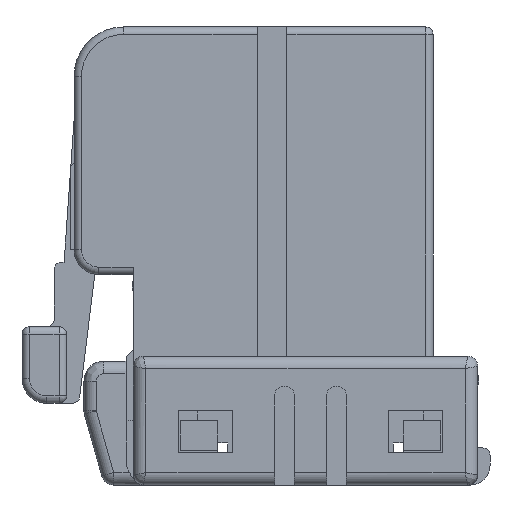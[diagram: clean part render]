
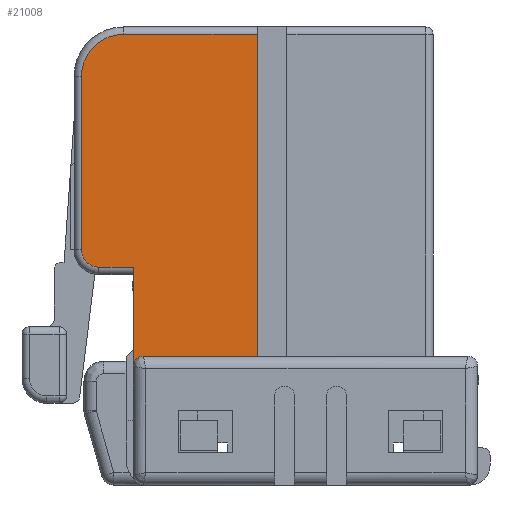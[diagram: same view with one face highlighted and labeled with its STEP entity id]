
A CAD part, left-side view. The second image highlights one B-rep face of the part: STEP entity #21008.
In plain terms, the highlighted planar face has unit normal (-1, 0, 0).
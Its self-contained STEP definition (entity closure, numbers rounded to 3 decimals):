
#3799=DIRECTION('',(0.,0.,-1.));
#3800=VECTOR('',#3799,4.);
#3801=CARTESIAN_POINT('',(-13.25,6.3,-9.7));
#3802=LINE('',#3801,#3800);
#6652=DIRECTION('',(0.,0.,-1.));
#6653=VECTOR('',#6652,13.);
#6654=CARTESIAN_POINT('',(-13.25,1.3,-0.3));
#6655=LINE('',#6654,#6653);
#6656=DIRECTION('',(0.,1.,0.));
#6657=VECTOR('',#6656,4.6);
#6658=CARTESIAN_POINT('',(-13.25,1.3,-13.3));
#6659=LINE('',#6658,#6657);
#6660=DIRECTION('',(0.,-1.,0.));
#6661=VECTOR('',#6660,1.4);
#6662=CARTESIAN_POINT('',(-13.25,7.7,-9.7));
#6663=LINE('',#6662,#6661);
#6664=CARTESIAN_POINT('',(-13.25,7.7,-9.));
#6665=DIRECTION('',(-1.,0.,0.));
#6666=DIRECTION('',(0.,1.,0.));
#6667=AXIS2_PLACEMENT_3D('',#6664,#6665,#6666);
#6669=DIRECTION('',(0.,0.,-1.));
#6670=VECTOR('',#6669,7.);
#6671=CARTESIAN_POINT('',(-13.25,8.4,-2.));
#6672=LINE('',#6671,#6670);
#6673=CARTESIAN_POINT('',(-13.25,6.7,-2.));
#6674=DIRECTION('',(-1.,0.,0.));
#6675=DIRECTION('',(0.,0.,1.));
#6676=AXIS2_PLACEMENT_3D('',#6673,#6674,#6675);
#6678=DIRECTION('',(0.,1.,0.));
#6679=VECTOR('',#6678,5.4);
#6680=CARTESIAN_POINT('',(-13.25,1.3,-0.3));
#6681=LINE('',#6680,#6679);
#6682=CARTESIAN_POINT('',(-13.25,5.9,-13.7));
#6683=DIRECTION('',(1.,0.,0.));
#6684=DIRECTION('',(0.,1.,0.));
#6685=AXIS2_PLACEMENT_3D('',#6682,#6683,#6684);
#9398=CARTESIAN_POINT('',(-13.25,1.3,-13.3));
#9400=VERTEX_POINT('',#9398);
#10146=CARTESIAN_POINT('',(-13.25,6.3,-13.7));
#10148=VERTEX_POINT('',#10146);
#10150=CARTESIAN_POINT('',(-13.25,5.9,-13.3));
#10152=VERTEX_POINT('',#10150);
#10578=CARTESIAN_POINT('',(-13.25,7.7,-9.7));
#10579=CARTESIAN_POINT('',(-13.25,6.3,-9.7));
#10580=VERTEX_POINT('',#10578);
#10581=VERTEX_POINT('',#10579);
#10582=CARTESIAN_POINT('',(-13.25,8.4,-9.));
#10583=VERTEX_POINT('',#10582);
#10586=CARTESIAN_POINT('',(-13.25,8.4,-2.));
#10587=VERTEX_POINT('',#10586);
#10590=CARTESIAN_POINT('',(-13.25,6.7,-0.3));
#10591=VERTEX_POINT('',#10590);
#10595=CARTESIAN_POINT('',(-13.25,1.3,-0.3));
#10597=VERTEX_POINT('',#10595);
#20987=CARTESIAN_POINT('',(-13.25,8.7,0.));
#20988=DIRECTION('',(-1.,0.,0.));
#20989=DIRECTION('',(0.,-1.,0.));
#20990=AXIS2_PLACEMENT_3D('',#20987,#20988,#20989);
#20991=PLANE('',#20990);
#20992=ORIENTED_EDGE('',*,*,#20865,.T.);
#20994=ORIENTED_EDGE('',*,*,#20993,.F.);
#20995=ORIENTED_EDGE('',*,*,#16971,.F.);
#20997=ORIENTED_EDGE('',*,*,#20996,.F.);
#20999=ORIENTED_EDGE('',*,*,#20998,.F.);
#21001=ORIENTED_EDGE('',*,*,#21000,.F.);
#21003=ORIENTED_EDGE('',*,*,#21002,.F.);
#21004=ORIENTED_EDGE('',*,*,#20979,.F.);
#21005=ORIENTED_EDGE('',*,*,#20968,.T.);
#21006=EDGE_LOOP('',(#20992,#20994,#20995,#20997,#20999,#21001,#21003,#21004,
#21005));
#21007=FACE_OUTER_BOUND('',#21006,.F.);
#21008=ADVANCED_FACE('',(#21007),#20991,.T.);
#6668=CIRCLE('',#6667,0.7);
#6677=CIRCLE('',#6676,1.7);
#6686=CIRCLE('',#6685,0.4);
#16971=EDGE_CURVE('',#10581,#10148,#3802,.T.);
#20865=EDGE_CURVE('',#9400,#10152,#6659,.T.);
#20968=EDGE_CURVE('',#10597,#9400,#6655,.T.);
#20979=EDGE_CURVE('',#10597,#10591,#6681,.T.);
#20993=EDGE_CURVE('',#10148,#10152,#6686,.T.);
#20996=EDGE_CURVE('',#10580,#10581,#6663,.T.);
#20998=EDGE_CURVE('',#10583,#10580,#6668,.T.);
#21000=EDGE_CURVE('',#10587,#10583,#6672,.T.);
#21002=EDGE_CURVE('',#10591,#10587,#6677,.T.);
